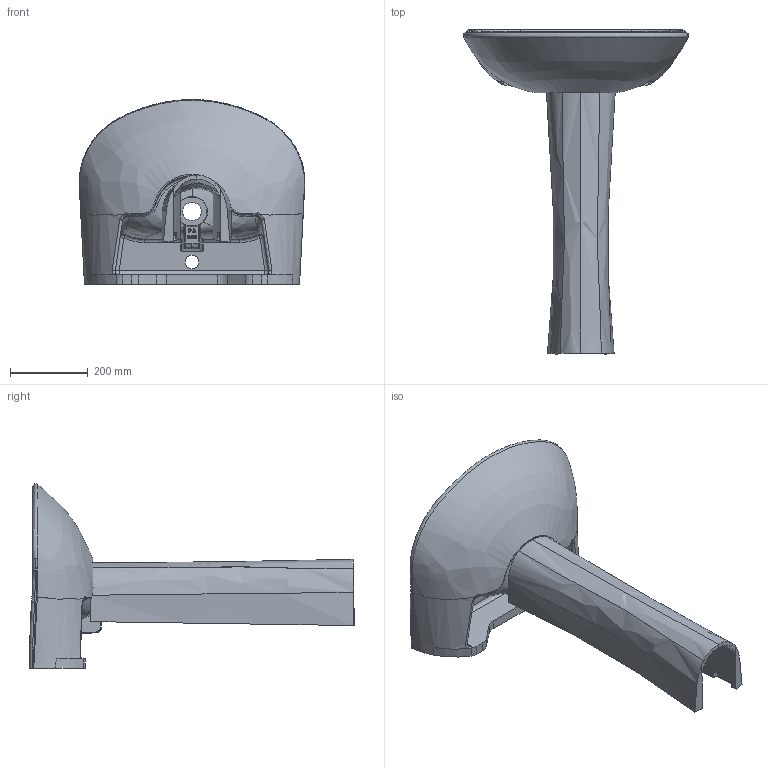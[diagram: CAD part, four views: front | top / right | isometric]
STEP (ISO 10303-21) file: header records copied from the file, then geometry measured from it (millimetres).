
FILE_DESCRIPTION (( 'STEP AP203' ), '1' );
FILE_NAME ('PA055-pa250.STEP', '2022-04-15T07:18:10', ( '' ), ( '' ), 'SwSTEP 2.0', 'SolidWorks 2021', '' );
FILE_SCHEMA (( 'CONFIG_CONTROL_DESIGN' ));
Products named in the file (1): PA055-pa250
Bounding box: 578.86 x 833.08 x 474.47 mm (x, y, z)
Volume: 15077245 mm3; surface area: 1453252.8 mm2
Topology: 3 solids, 5 shells, 724 faces, 1780 edges, 1045 vertices
Faces by surface type: bspline 395, cylinder 148, torus 87, plane 70, sphere 18, cone 6
Entity records: 88241 total; most frequent: CARTESIAN_POINT 74254, ORIENTED_EDGE 3512, DIRECTION 2034, EDGE_CURVE 1756, VERTEX_POINT 1045, B_SPLINE_CURVE_WITH_KNOTS 861, AXIS2_PLACEMENT_3D 846, EDGE_LOOP 737
